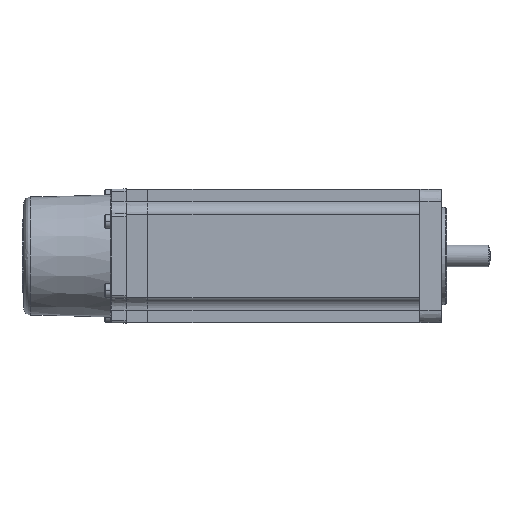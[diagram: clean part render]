
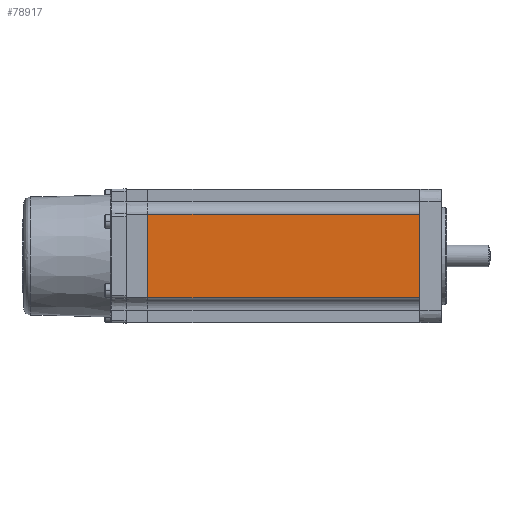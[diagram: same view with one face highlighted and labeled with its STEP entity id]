
A CAD part, front view. The second image highlights one B-rep face of the part: STEP entity #78917.
In plain terms, the highlighted planar face has unit normal (0, -1, 0) as drawn and (0, 1, 0) by its records, which use the part's own axes.
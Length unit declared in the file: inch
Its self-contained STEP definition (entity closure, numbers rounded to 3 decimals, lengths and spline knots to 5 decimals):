
#5894 = AXIS2_PLACEMENT_3D ( 'NONE', #69606, #157773, #82299 ) ;
#6789 = EDGE_CURVE ( 'NONE', #10226, #125576, #13152, .T. ) ;
#9335 = CARTESIAN_POINT ( 'NONE',  ( 0.68007, 1.08268, -2.20616 ) ) ;
#10226 = VERTEX_POINT ( 'NONE', #154919 ) ;
#13152 = LINE ( 'NONE', #52473, #76434 ) ;
#39351 = VERTEX_POINT ( 'NONE', #64941 ) ;
#43382 = FACE_OUTER_BOUND ( 'NONE', #68588, .T. ) ;
#44129 = PLANE ( 'NONE',  #5894 ) ;
#46178 = ORIENTED_EDGE ( 'NONE', *, *, #116273, .F. ) ;
#52473 = CARTESIAN_POINT ( 'NONE',  ( -0.68007, 1.08268, -2.20616 ) ) ;
#63934 = VERTEX_POINT ( 'NONE', #73404 ) ;
#64941 = CARTESIAN_POINT ( 'NONE',  ( 0.68007, 1.08268, 2.20616 ) ) ;
#68588 = EDGE_LOOP ( 'NONE', ( #46178, #132903, #79163, #114172 ) ) ;
#69606 = CARTESIAN_POINT ( 'NONE',  ( -1.08268, 1.08268, -2.20616 ) ) ;
#73404 = CARTESIAN_POINT ( 'NONE',  ( 0.68007, 1.08268, -2.20616 ) ) ;
#74855 = VECTOR ( 'NONE', #106222, 39.37008 ) ;
#76361 = LINE ( 'NONE', #9335, #109946 ) ;
#76434 = VECTOR ( 'NONE', #152882, 39.37008 ) ;
#78917 = ADVANCED_FACE ( 'NONE', ( #43382 ), #44129, .F. ) ;
#79163 = ORIENTED_EDGE ( 'NONE', *, *, #145404, .F. ) ;
#82299 = DIRECTION ( 'NONE',  ( 0., 0., -1. ) ) ;
#87739 = DIRECTION ( 'NONE',  ( 0., 0., 1. ) ) ;
#89596 = VECTOR ( 'NONE', #137587, 39.37008 ) ;
#93534 = CARTESIAN_POINT ( 'NONE',  ( -1.08268, 1.08268, -2.20616 ) ) ;
#102243 = EDGE_CURVE ( 'NONE', #63934, #39351, #76361, .T. ) ;
#106222 = DIRECTION ( 'NONE',  ( 1., 0., 0. ) ) ;
#108443 = LINE ( 'NONE', #93534, #74855 ) ;
#109946 = VECTOR ( 'NONE', #87739, 39.37008 ) ;
#113848 = CARTESIAN_POINT ( 'NONE',  ( 1.08268, 1.08268, 2.20616 ) ) ;
#114172 = ORIENTED_EDGE ( 'NONE', *, *, #6789, .F. ) ;
#116273 = EDGE_CURVE ( 'NONE', #39351, #10226, #123200, .T. ) ;
#123200 = LINE ( 'NONE', #113848, #89596 ) ;
#125576 = VERTEX_POINT ( 'NONE', #138494 ) ;
#132903 = ORIENTED_EDGE ( 'NONE', *, *, #102243, .F. ) ;
#137587 = DIRECTION ( 'NONE',  ( -1., 0., 0. ) ) ;
#138494 = CARTESIAN_POINT ( 'NONE',  ( -0.68007, 1.08268, -2.20616 ) ) ;
#145404 = EDGE_CURVE ( 'NONE', #125576, #63934, #108443, .T. ) ;
#152882 = DIRECTION ( 'NONE',  ( 0., 0., -1. ) ) ;
#154919 = CARTESIAN_POINT ( 'NONE',  ( -0.68007, 1.08268, 2.20616 ) ) ;
#157773 = DIRECTION ( 'NONE',  ( 0., -1., 0. ) ) ;
